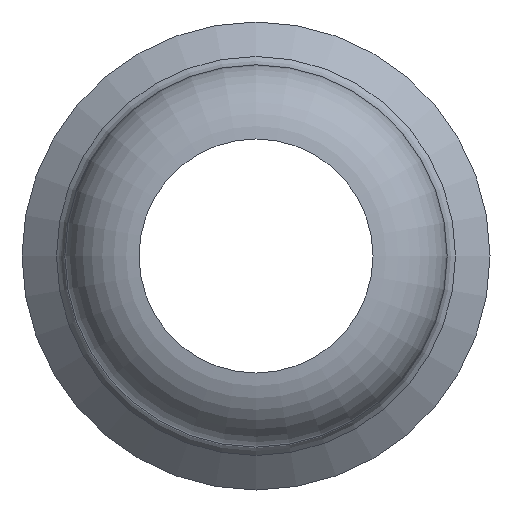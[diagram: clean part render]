
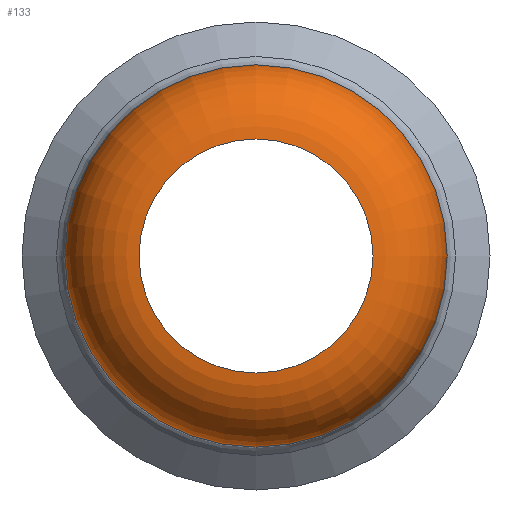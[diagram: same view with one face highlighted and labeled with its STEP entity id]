
A CAD part, left-side view. The second image highlights one B-rep face of the part: STEP entity #133.
In plain terms, the highlighted toroidal (fillet/blend) face has major radius 0.368 mm and minor radius 0.254 mm.
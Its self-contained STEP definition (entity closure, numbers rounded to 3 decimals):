
#19=TOROIDAL_SURFACE($,#158,0.368,0.254);
#30=FACE_BOUND($,#63,.T.);
#41=FACE_OUTER_BOUND($,#62,.T.);
#62=EDGE_LOOP($,(#117));
#63=EDGE_LOOP($,(#118));
#65=CIRCLE($,#139,0.381);
#74=CIRCLE($,#156,0.622);
#76=VERTEX_POINT($,#209);
#85=VERTEX_POINT($,#235);
#87=EDGE_CURVE($,#76,#76,#65,.T.);
#96=EDGE_CURVE($,#85,#85,#74,.T.);
#117=ORIENTED_EDGE($,*,*,#87,.T.);
#118=ORIENTED_EDGE($,*,*,#96,.F.);
#133=ADVANCED_FACE($,(#41,#30),#19,.T.);
#139=AXIS2_PLACEMENT_3D($,#210,#165,#166);
#156=AXIS2_PLACEMENT_3D($,#236,#199,#200);
#158=AXIS2_PLACEMENT_3D($,#238,#203,#204);
#165=DIRECTION('center_axis',(1.,0.,0.));
#166=DIRECTION('ref_axis',(0.,-1.,0.));
#199=DIRECTION('center_axis',(1.,0.,0.));
#200=DIRECTION('ref_axis',(0.,1.,0.));
#203=DIRECTION('center_axis',(1.,0.,0.));
#204=DIRECTION('ref_axis',(0.,0.,-1.));
#209=CARTESIAN_POINT('',(0.,0.381,0.));
#210=CARTESIAN_POINT('Origin',(0.,0.,
0.));
#235=CARTESIAN_POINT('',(0.254,0.622,0.));
#236=CARTESIAN_POINT('Origin',(0.254,0.,0.));
#238=CARTESIAN_POINT('Origin',(0.254,0.,0.));
